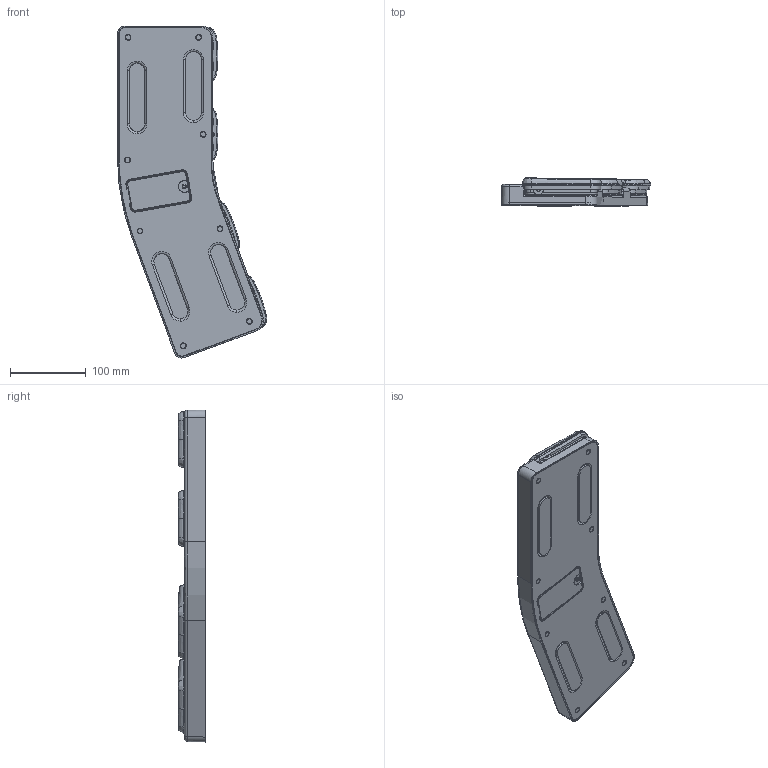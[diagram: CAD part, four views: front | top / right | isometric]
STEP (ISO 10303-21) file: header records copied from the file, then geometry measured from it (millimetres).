
FILE_DESCRIPTION (( 'STEP AP203' ), '1' );
FILE_NAME ('3D_TFS5(µL½uª©).STEP', '2018-03-09T11:00:49', ( '' ), ( '' ), 'SwSTEP 2.0', 'SolidWorks 2015', '' );
FILE_SCHEMA (( 'CONFIG_CONTROL_DESIGN' ));
Products named in the file (1): 3D_TFS5(無線版)
Bounding box: 196.87 x 36.77 x 438.24 mm (x, y, z)
Volume: 1610306.1 mm3; surface area: 341877.8 mm2
Topology: 7 solids, 7 shells, 1021 faces, 2727 edges, 1748 vertices
Faces by surface type: bspline 351, cylinder 323, plane 269, cone 50, torus 28
Entity records: 60576 total; most frequent: CARTESIAN_POINT 38487, ORIENTED_EDGE 5440, DIRECTION 3275, EDGE_CURVE 2720, VERTEX_POINT 1748, B_SPLINE_CURVE_WITH_KNOTS 1241, AXIS2_PLACEMENT_3D 1191, EDGE_LOOP 1066
